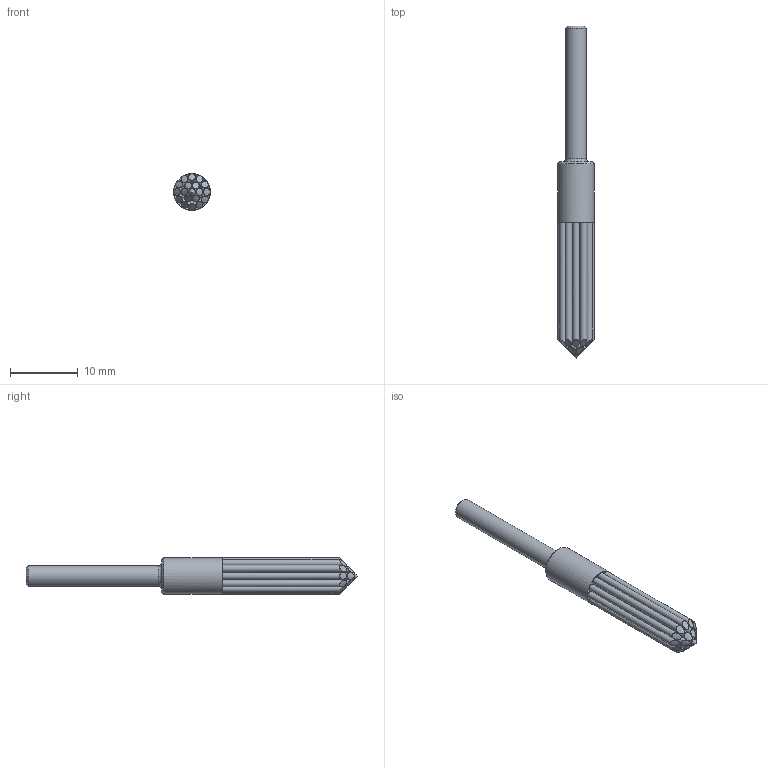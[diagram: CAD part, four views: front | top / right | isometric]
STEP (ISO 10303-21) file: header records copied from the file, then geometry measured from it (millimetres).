
FILE_DESCRIPTION(/* description */ (''),/* implementation_level */ '2;1');
FILE_NAME(/* name */ 'G:\My Drive\NOGA\Engineering\UFIBER\END-BRUSH 45 ANGLED TIP.stp',/* time_stamp */ '2025-03-25T14:33:41+02:00',/* author */ ('sagi'),/* organization */ (''),/* preprocessor_version */ 'ST-DEVELOPER v18.1',/* originating_system */ 'Autodesk Inventor 2022',/* authorisation */ '');
FILE_SCHEMA (('AUTOMOTIVE_DESIGN { 1 0 10303 214 3 1 1 }'));
Length unit declared in the file: millimetre
Products named in the file (1): END-BRUSH BRUSH 5MM-45
Bounding box: 5.4 x 49 x 5.4 mm (x, y, z)
Volume: 618.7 mm3; surface area: 1473.1 mm2
Topology: 1 solids, 1 shells, 46 faces, 113 edges, 77 vertices
Faces by surface type: cone 21, cylinder 21, plane 3, torus 1
Full cylindrical faces by diameter (mm): 1 x19, 3 x1, 5.4 x1
Entity records: 2117 total; most frequent: CARTESIAN_POINT 948, ORIENTED_EDGE 224, DIRECTION 222, EDGE_CURVE 112, AXIS2_PLACEMENT_3D 99, VERTEX_POINT 76, EDGE_LOOP 54, CIRCLE 52
